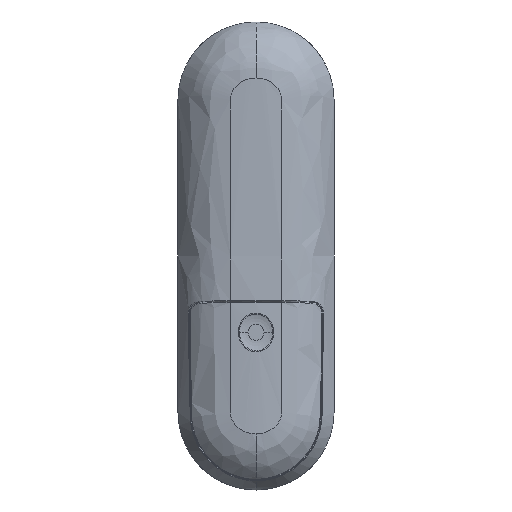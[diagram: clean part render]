
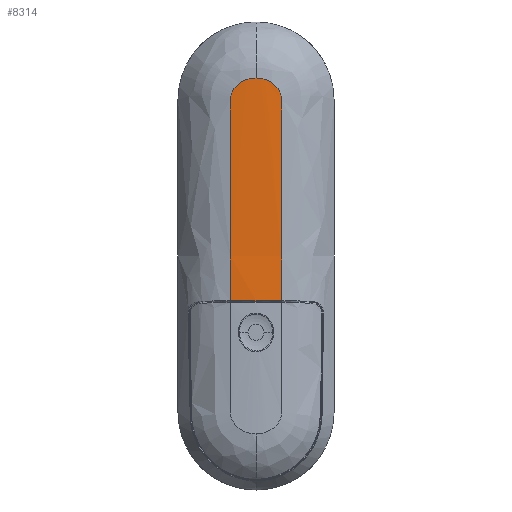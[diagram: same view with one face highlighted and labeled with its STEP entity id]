
A CAD part, top view. The second image highlights one B-rep face of the part: STEP entity #8314.
In plain terms, the highlighted cylindrical face has radius 91.774 mm (diameter 183.547 mm), a partial arc.
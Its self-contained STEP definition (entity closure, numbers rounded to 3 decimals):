
#1124 = CARTESIAN_POINT ( 'NONE',  ( 8.23, 0., 11.63 ) ) ;
#1346 = CARTESIAN_POINT ( 'NONE',  ( -7.703, 52.492, 11.676 ) ) ;
#2260 = CARTESIAN_POINT ( 'NONE',  ( -0.457, 57.034, 12. ) ) ;
#2636 = CARTESIAN_POINT ( 'NONE',  ( -8.23, -4.789, 11.63 ) ) ;
#3142 = VERTEX_POINT ( 'NONE', #34317 ) ;
#4135 = DIRECTION ( 'NONE',  ( 0., 0., -1. ) ) ;
#6894 = ORIENTED_EDGE ( 'NONE', *, *, #118489, .F. ) ;
#8188 = CYLINDRICAL_SURFACE ( 'NONE', #86261, 91.774 ) ;
#8314 = ADVANCED_FACE ( 'NONE', ( #54921 ), #8188, .T. ) ;
#10793 = B_SPLINE_CURVE_WITH_KNOTS ( 'NONE', 3,
 ( #87455, #23532, #67385, #14192, #45033, #119637, #44128, #98627, #55745, #88807, #33367, #98170 ),
 .UNSPECIFIED., .F., .F.,
 ( 4, 1, 1, 1, 1, 1, 1, 1, 1, 4 ),
 ( 0., 0.02, 0.04, 0.059, 0.079, 0.099, 0.119, 0.125, 0.139, 0.158 ),
 .UNSPECIFIED. ) ;
#12665 = LINE ( 'NONE', #91581, #122799 ) ;
#12988 = CARTESIAN_POINT ( 'NONE',  ( -1.379, 56.966, 11.993 ) ) ;
#14192 = CARTESIAN_POINT ( 'NONE',  ( 2.753, 56.656, 11.962 ) ) ;
#16605 = CARTESIAN_POINT ( 'NONE',  ( 8.23, -9.919, 11.63 ) ) ;
#16910 =( BOUNDED_CURVE ( )  B_SPLINE_CURVE ( 3, ( #120606, #58545, #25879, #121975 ),
 .UNSPECIFIED., .F., .F. ) 
 B_SPLINE_CURVE_WITH_KNOTS ( ( 4, 4 ),
 ( 3.052, 3.231 ),
 .UNSPECIFIED. ) 
 CURVE ( )  GEOMETRIC_REPRESENTATION_ITEM ( )  RATIONAL_B_SPLINE_CURVE ( ( 1., 0.997, 0.997, 1. ) ) 
 REPRESENTATION_ITEM ( '' )  );
#22785 = CARTESIAN_POINT ( 'NONE',  ( -8.093, 51.492, 11.643 ) ) ;
#23240 = CARTESIAN_POINT ( 'NONE',  ( -2.753, 56.656, 11.962 ) ) ;
#23532 = CARTESIAN_POINT ( 'NONE',  ( 0.457, 57.034, 12. ) ) ;
#25448 = CARTESIAN_POINT ( 'NONE',  ( -8.23, 0., 11.63 ) ) ;
#25879 = CARTESIAN_POINT ( 'NONE',  ( 2.751, -14.342, 12.124 ) ) ;
#26732 = CARTESIAN_POINT ( 'NONE',  ( 8.23, 218.897, 11.63 ) ) ;
#31250 = VERTEX_POINT ( 'NONE', #73316 ) ;
#32237 = CARTESIAN_POINT ( 'NONE',  ( 8.23, 50., 11.63 ) ) ;
#32255 = EDGE_CURVE ( 'NONE', #31250, #3142, #134266, .T. ) ;
#33367 = CARTESIAN_POINT ( 'NONE',  ( 8.23, 50.563, 11.63 ) ) ;
#33537 = CARTESIAN_POINT ( 'NONE',  ( -8.23, 50.563, 11.63 ) ) ;
#34317 = CARTESIAN_POINT ( 'NONE',  ( -8.23, -14.368, 11.63 ) ) ;
#36010 = EDGE_LOOP ( 'NONE', ( #70153, #65497, #101174, #126127, #6894, #90162, #130028 ) ) ;
#38649 = EDGE_CURVE ( 'NONE', #128603, #67113, #66931, .T. ) ;
#40049 = B_SPLINE_CURVE_WITH_KNOTS ( 'NONE', 3,
 ( #112257, #91693, #16605, #90786 ),
 .UNSPECIFIED., .F., .F.,
 ( 4, 4 ),
 ( 0., 0.191 ),
 .UNSPECIFIED. ) ;
#44128 = CARTESIAN_POINT ( 'NONE',  ( 6.484, 54.376, 11.773 ) ) ;
#45033 = CARTESIAN_POINT ( 'NONE',  ( 4.091, 56.127, 11.912 ) ) ;
#49659 = CARTESIAN_POINT ( 'NONE',  ( -8.23, 50., 11.63 ) ) ;
#50997 = DIRECTION ( 'NONE',  ( 0., -1., 0. ) ) ;
#54921 = FACE_OUTER_BOUND ( 'NONE', #36010, .T. ) ;
#55745 = CARTESIAN_POINT ( 'NONE',  ( 7.703, 52.492, 11.676 ) ) ;
#56869 = CARTESIAN_POINT ( 'NONE',  ( 0., 218.897, -79.774 ) ) ;
#58487 = VECTOR ( 'NONE', #50997, 1000. ) ;
#58545 = CARTESIAN_POINT ( 'NONE',  ( -2.751, -14.342, 12.124 ) ) ;
#65251 = CARTESIAN_POINT ( 'NONE',  ( 0., 57.034, 12. ) ) ;
#65497 = ORIENTED_EDGE ( 'NONE', *, *, #102510, .T. ) ;
#66931 = LINE ( 'NONE', #26732, #58487 ) ;
#67113 = VERTEX_POINT ( 'NONE', #1124 ) ;
#67385 = CARTESIAN_POINT ( 'NONE',  ( 1.379, 56.966, 11.993 ) ) ;
#69728 = CARTESIAN_POINT ( 'NONE',  ( -8.23, -9.579, 11.63 ) ) ;
#70153 = ORIENTED_EDGE ( 'NONE', *, *, #32255, .T. ) ;
#70274 = VERTEX_POINT ( 'NONE', #129512 ) ;
#73316 = CARTESIAN_POINT ( 'NONE',  ( -8.23, 0., 11.63 ) ) ;
#75526 = CARTESIAN_POINT ( 'NONE',  ( -4.091, 56.127, 11.912 ) ) ;
#79336 = B_SPLINE_CURVE_WITH_KNOTS ( 'NONE', 3,
 ( #65251, #2260, #12988, #23240, #75526, #97883, #129159, #87599, #1346, #22785, #33537, #119795 ),
 .UNSPECIFIED., .F., .F.,
 ( 4, 1, 1, 1, 1, 1, 1, 1, 1, 4 ),
 ( 0., 0.02, 0.04, 0.059, 0.079, 0.099, 0.119, 0.125, 0.139, 0.158 ),
 .UNSPECIFIED. ) ;
#86261 = AXIS2_PLACEMENT_3D ( 'NONE', #56869, #89473, #4135 ) ;
#87455 = CARTESIAN_POINT ( 'NONE',  ( 0., 57.034, 12. ) ) ;
#87599 = CARTESIAN_POINT ( 'NONE',  ( -7.206, 53.42, 11.717 ) ) ;
#88807 = CARTESIAN_POINT ( 'NONE',  ( 8.093, 51.492, 11.643 ) ) ;
#89473 = DIRECTION ( 'NONE',  ( 0., -1., 0. ) ) ;
#90162 = ORIENTED_EDGE ( 'NONE', *, *, #106611, .T. ) ;
#90786 = CARTESIAN_POINT ( 'NONE',  ( 8.23, -14.368, 11.63 ) ) ;
#91581 = CARTESIAN_POINT ( 'NONE',  ( -8.23, 218.897, 11.63 ) ) ;
#91693 = CARTESIAN_POINT ( 'NONE',  ( 8.23, -4.96, 11.63 ) ) ;
#97883 = CARTESIAN_POINT ( 'NONE',  ( -5.349, 55.371, 11.847 ) ) ;
#98170 = CARTESIAN_POINT ( 'NONE',  ( 8.23, 50., 11.63 ) ) ;
#98627 = CARTESIAN_POINT ( 'NONE',  ( 7.206, 53.42, 11.717 ) ) ;
#101174 = ORIENTED_EDGE ( 'NONE', *, *, #107157, .F. ) ;
#102510 = EDGE_CURVE ( 'NONE', #3142, #70274, #16910, .T. ) ;
#102636 = VERTEX_POINT ( 'NONE', #49659 ) ;
#106611 = EDGE_CURVE ( 'NONE', #124645, #102636, #79336, .T. ) ;
#107157 = EDGE_CURVE ( 'NONE', #67113, #70274, #40049, .T. ) ;
#112257 = CARTESIAN_POINT ( 'NONE',  ( 8.23, 0., 11.63 ) ) ;
#113066 = DIRECTION ( 'NONE',  ( 0., -1., 0. ) ) ;
#118489 = EDGE_CURVE ( 'NONE', #124645, #128603, #10793, .T. ) ;
#119510 = EDGE_CURVE ( 'NONE', #102636, #31250, #12665, .T. ) ;
#119637 = CARTESIAN_POINT ( 'NONE',  ( 5.349, 55.371, 11.847 ) ) ;
#119795 = CARTESIAN_POINT ( 'NONE',  ( -8.23, 50., 11.63 ) ) ;
#120606 = CARTESIAN_POINT ( 'NONE',  ( -8.23, -14.368, 11.63 ) ) ;
#121975 = CARTESIAN_POINT ( 'NONE',  ( 8.23, -14.368, 11.63 ) ) ;
#122799 = VECTOR ( 'NONE', #113066, 1000. ) ;
#124645 = VERTEX_POINT ( 'NONE', #137771 ) ;
#126127 = ORIENTED_EDGE ( 'NONE', *, *, #38649, .F. ) ;
#128603 = VERTEX_POINT ( 'NONE', #32237 ) ;
#129159 = CARTESIAN_POINT ( 'NONE',  ( -6.484, 54.376, 11.773 ) ) ;
#129512 = CARTESIAN_POINT ( 'NONE',  ( 8.23, -14.368, 11.63 ) ) ;
#130028 = ORIENTED_EDGE ( 'NONE', *, *, #119510, .T. ) ;
#132731 = CARTESIAN_POINT ( 'NONE',  ( -8.23, -14.368, 11.63 ) ) ;
#134266 = B_SPLINE_CURVE_WITH_KNOTS ( 'NONE', 3,
 ( #25448, #2636, #69728, #132731 ),
 .UNSPECIFIED., .F., .F.,
 ( 4, 4 ),
 ( 0., 0.287 ),
 .UNSPECIFIED. ) ;
#137771 = CARTESIAN_POINT ( 'NONE',  ( 0., 57.034, 12. ) ) ;
